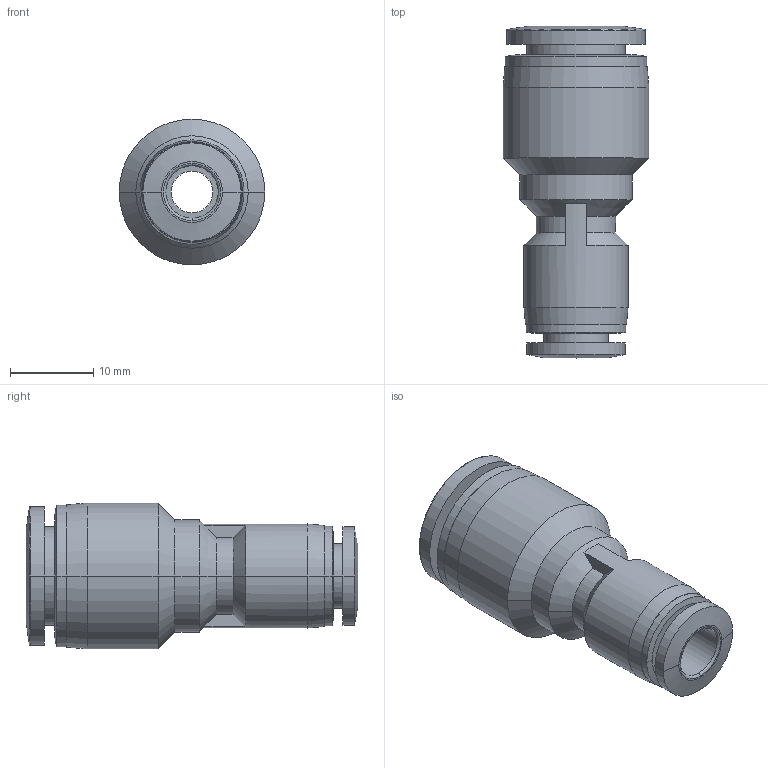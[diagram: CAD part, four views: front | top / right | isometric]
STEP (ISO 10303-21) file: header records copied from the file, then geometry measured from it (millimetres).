
FILE_DESCRIPTION (( 'STEP AP203' ), '1' );
FILE_NAME ('FRH10-06.STEP', '2020-05-12T15:01:15', ( '' ), ( '' ), 'SwSTEP 2.0', 'SolidWorks 2019', '' );
FILE_SCHEMA (( 'CONFIG_CONTROL_DESIGN' ));
Length unit declared in the file: millimetre
Products named in the file (1): FRH10-06
Bounding box: 17.5 x 39.85 x 17.5 mm (x, y, z)
Volume: 4112.1 mm3; surface area: 3478.6 mm2
Topology: 1 solids, 1 shells, 66 faces, 149 edges, 93 vertices
Faces by surface type: cylinder 27, cone 19, plane 12, torus 6, bspline 2
Entity records: 1945 total; most frequent: DIRECTION 362, CARTESIAN_POINT 331, ORIENTED_EDGE 298, AXIS2_PLACEMENT_3D 156, EDGE_CURVE 149, VERTEX_POINT 93, CIRCLE 91, EDGE_LOOP 76
